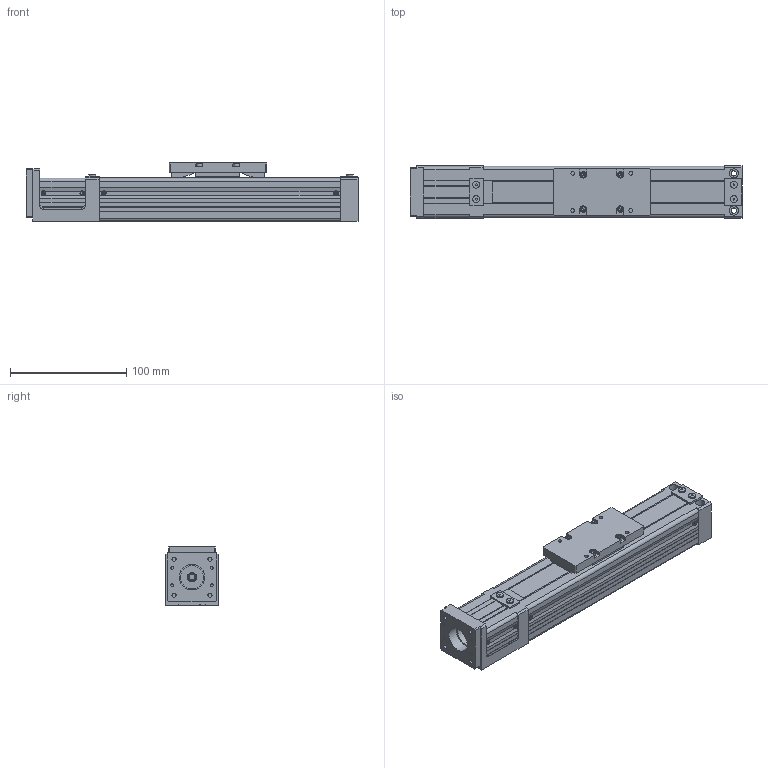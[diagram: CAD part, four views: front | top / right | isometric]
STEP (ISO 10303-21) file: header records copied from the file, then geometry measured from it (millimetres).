
FILE_DESCRIPTION((''),'2;1');
FILE_NAME('D:\製品 (図面)\カタログ用3D\SU部品\SU45×50\ダウンロード用\SU45×50-MB42\SU45×50-100-MB42.stp','2011-03-30T14:04:50',('Tsuchiya'),(''),'Autodesk Inventor 10','Autodesk Inventor 10','');
FILE_SCHEMA(('AUTOMOTIVE_DESIGN { 1 0 10303 214 1 1 1 1 }'));
Length unit declared in the file: millimetre
Products named in the file (3): SU45×50-100-MB42; SU45×50-100-MB421; SU45×50-100-MB422
Assembly tree (2 placements, depth 2):
  SU45×50-100-MB42
    SU45×50-100-MB421
    SU45×50-100-MB422
Bounding box: 286 x 45 x 50 mm (x, y, z)
Volume: 229685.8 mm3; surface area: 122706.4 mm2
Topology: 2 solids, 4 shells, 677 faces, 1810 edges, 1193 vertices
Faces by surface type: plane 519, cylinder 83, bspline 44, torus 18, cone 13
Full cylindrical faces by diameter (mm): 2.459 x4, 3.242 x4, 3.4 x4, 4 x2, 4.5 x6, 5 x4, 6 x5, 7 x6, 8 x7, 10 x1, 20 x1, 22 x1, 30 x1
Entity records: 20761 total; most frequent: CARTESIAN_POINT 4474, ORIENTED_EDGE 3334, DIRECTION 3128, EDGE_CURVE 1667, VECTOR 1318, LINE 1318, VERTEX_POINT 1153, AXIS2_PLACEMENT_3D 905
